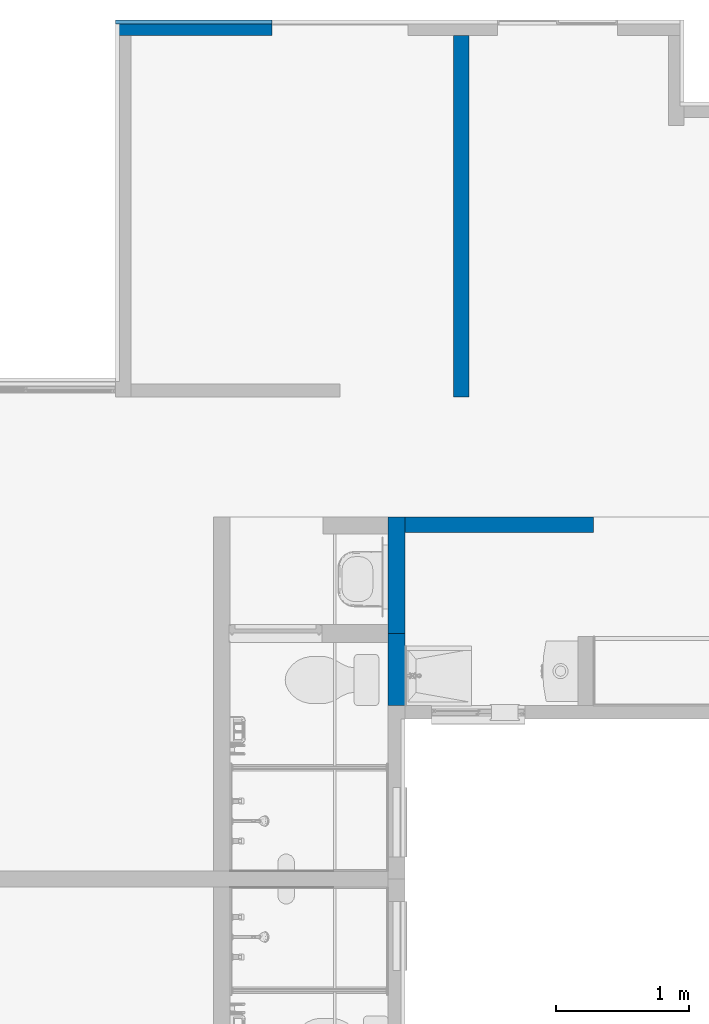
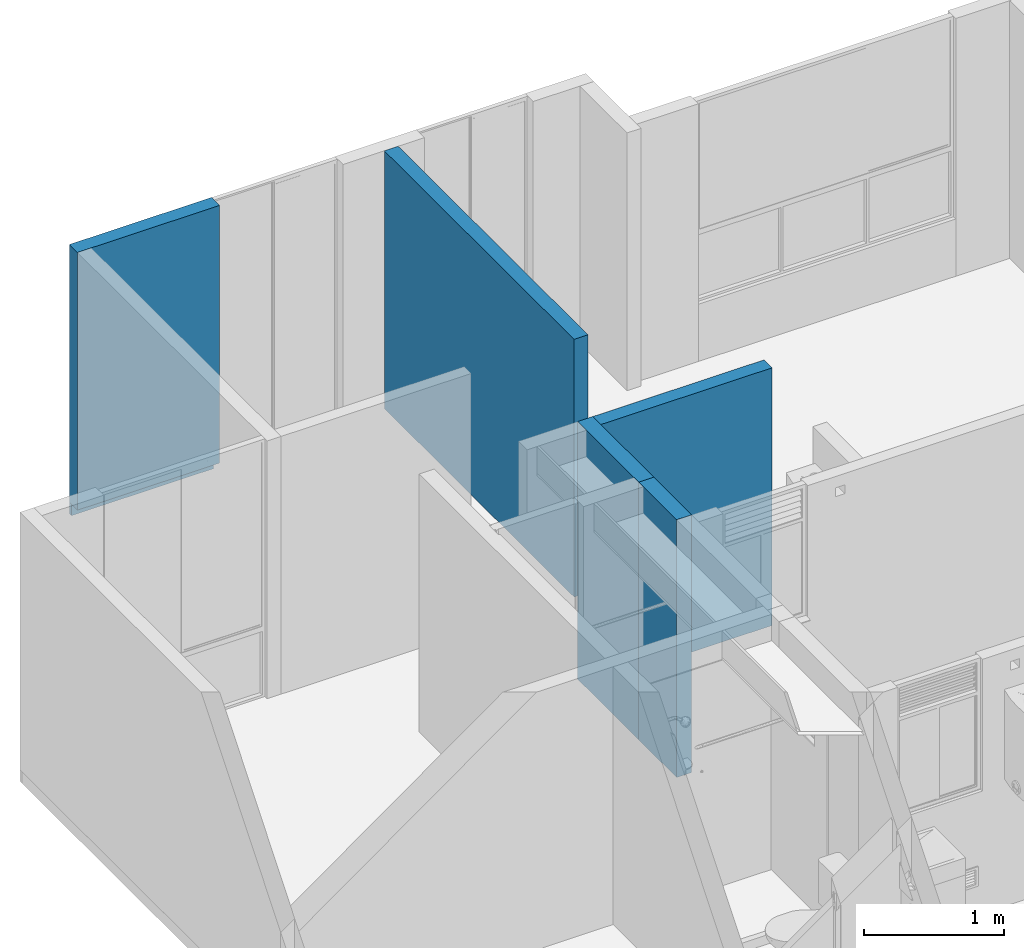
# One storey, part 16 of 48: 6 walls.
"""IFC4 building model written with IfcOpenShell, lengths in metres."""

import ifcopenshell
import ifcopenshell.guid

model = None  # the IFC model being written
_history = None  # IfcOwnerHistory: only IFC2X3 demands one
_inside = {}  # id of a spatial element -> (the spatial element, [elements in it])
_under = {}  # id of a project, library or spatial element -> (it, [spatial elements below it])
_declared = {}  # id of a project -> (the project, [libraries it declares])
_typed = {}  # id of a type object -> (the type object, [elements of that type])
_made_of = {}  # id of a material, layer set ... -> (it, [elements and type objects made of it])


def new_model(schema):
    """Start an empty IFC model of exactly this schema.

    Asked for "IFC4X3", IfcOpenShell would pick the latest addendum, in which some entities
    have other attributes; the version numbers below select the first issue.
    IFC2X3 requires an IfcOwnerHistory on every rooted entity: one is made here for all.
    """
    global model, _history
    if schema == "IFC4X3":
        model = ifcopenshell.file(schema_version=(4, 3, 0, 0))
    else:
        model = ifcopenshell.file(schema=schema)
    _inside.clear()
    _under.clear()
    _declared.clear()
    _typed.clear()
    _made_of.clear()
    _history = None
    if model.schema == "IFC2X3":
        org = make("IfcOrganization", Name="unknown")
        user = make(
            "IfcPersonAndOrganization",
            ThePerson=make("IfcPerson", FamilyName="unknown"),
            TheOrganization=org,
        )
        app = make(
            "IfcApplication",
            ApplicationDeveloper=org,
            Version="unknown",
            ApplicationFullName="unknown",
            ApplicationIdentifier="unknown",
        )
        _history = make(
            "IfcOwnerHistory",
            OwningUser=user,
            OwningApplication=app,
            ChangeAction="ADDED",
            CreationDate=0,
        )
    return model


def make(cls, **values):
    """One entity of the class cls with the attributes given. An attribute that is None is left unset."""
    return model.create_entity(
        cls, **{name: value for name, value in values.items() if value is not None}
    )


def entity(cls, *values):
    """Any entity or typed value of the class cls, its attributes in the order of the schema. None: left unset."""
    e = model.create_entity(cls)
    for i, value in enumerate(values):
        if value is not None:
            e[i] = value
    return e


def rooted(cls, **values):
    """An entity with a GlobalId (a new one), such as an element, a storey or a relation."""
    return make(cls, GlobalId=ifcopenshell.guid.new(), OwnerHistory=_history, **values)


def si_unit(unit_type, name, prefix=None):
    """IfcSIUnit, for example si_unit("LENGTHUNIT", "METRE", prefix="MILLI")."""
    return make("IfcSIUnit", UnitType=unit_type, Prefix=prefix, Name=name)


def converted_unit(unit_type, name, factor, base, dimensions=None, offset=None):
    """IfcConversionBasedUnit, such as the inch: factor (a typed value) times the base unit."""
    return make(
        "IfcConversionBasedUnit"
        if offset is None
        else "IfcConversionBasedUnitWithOffset",
        ConversionOffset=offset,
        Dimensions=None
        if dimensions is None
        else entity("IfcDimensionalExponents", *dimensions),
        UnitType=unit_type,
        Name=name,
        ConversionFactor=make(
            "IfcMeasureWithUnit", ValueComponent=factor, UnitComponent=base
        ),
    )


def derived_unit(unit_type, elements):
    """IfcDerivedUnit: a product of units, each with its exponent."""
    return make(
        "IfcDerivedUnit",
        Elements=[
            make("IfcDerivedUnitElement", Unit=unit, Exponent=power)
            for unit, power in elements
        ],
        UnitType=unit_type,
    )


def assignment(units):
    """IfcUnitAssignment: the units of a project."""
    return None if units is None else make("IfcUnitAssignment", Units=units)


def point(xyz):
    """IfcCartesianPoint."""
    return None if xyz is None else make("IfcCartesianPoint", Coordinates=xyz)


def direction(xyz):
    """IfcDirection."""
    return None if xyz is None else make("IfcDirection", DirectionRatios=xyz)


def frame(location, z_axis=None, x_axis=None):
    """IfcAxis2Placement3D, a coordinate frame: its origin and axes. An axis left out is left unset."""
    return make(
        "IfcAxis2Placement3D",
        Location=point(location),
        Axis=direction(z_axis),
        RefDirection=direction(x_axis),
    )


def origin():
    """The frame at (0, 0, 0) with its axes left unset."""
    return frame((0.0, 0.0, 0.0))


def place(relative_to, where):
    """IfcLocalPlacement: puts the frame where relative to a parent placement (None: the world)."""
    return make(
        "IfcLocalPlacement", PlacementRelTo=relative_to, RelativePlacement=where
    )


def context(
    kind, dimensions, precision=None, world=None, true_north=None, identifier=None
):
    """IfcGeometricRepresentationContext, for example the 3D "Model" context."""
    return make(
        "IfcGeometricRepresentationContext",
        ContextIdentifier=identifier,
        ContextType=kind,
        CoordinateSpaceDimension=dimensions,
        Precision=precision,
        WorldCoordinateSystem=world,
        TrueNorth=true_north,
    )


def subcontext(parent, identifier, kind, view, scale=None):
    """IfcGeometricRepresentationSubContext, for example "Body" below "Model"."""
    return make(
        "IfcGeometricRepresentationSubContext",
        ContextIdentifier=identifier,
        ContextType=kind,
        ParentContext=parent,
        TargetScale=scale,
        TargetView=view,
    )


def project(units=None, contexts=None):
    """IfcProject with its units and contexts."""
    return rooted(
        "IfcProject",
        Name="project",
        RepresentationContexts=contexts,
        UnitsInContext=assignment(units),
    )


def spatial(cls, under=None, at=None, **own):
    """A site, building, storey or space (cls), placed at a placement, below another one or the project."""
    s = rooted(cls, ObjectPlacement=at, **own)
    if under is not None:
        _under.setdefault(under.id(), (under, []))[1].append(s)
    return s


def point_list(points):
    """IfcCartesianPointList2D or 3D."""
    cls = (
        "IfcCartesianPointList2D" if len(points[0]) == 2 else "IfcCartesianPointList3D"
    )
    return make(cls, CoordList=points)


def indexed_curve(points, segments=None, self_intersect=None):
    """IfcIndexedPolyCurve: lines and arcs through numbered points (the first is 1)."""
    return make(
        "IfcIndexedPolyCurve",
        Points=point_list(points),
        Segments=segments,
        SelfIntersect=self_intersect,
    )


def outline(outer, holes=None, kind="AREA"):
    """IfcArbitraryClosedProfileDef: a profile drawn as a closed curve; with holes, ...WithVoids."""
    if holes is None:
        return make("IfcArbitraryClosedProfileDef", ProfileType=kind, OuterCurve=outer)
    return make(
        "IfcArbitraryProfileDefWithVoids",
        ProfileType=kind,
        OuterCurve=outer,
        InnerCurves=holes,
    )


def extrude(swept, where, along, depth):
    """IfcExtrudedAreaSolid: the profile swept, set in the frame where, extruded along a direction by depth."""
    return make(
        "IfcExtrudedAreaSolid",
        SweptArea=swept,
        Position=where,
        ExtrudedDirection=direction(along),
        Depth=depth,
    )


def shape(context_of_items, identifier, shape_type, items):
    """IfcShapeRepresentation: the items that make up one representation, for example the "Body"."""
    return make(
        "IfcShapeRepresentation",
        ContextOfItems=context_of_items,
        RepresentationIdentifier=identifier,
        RepresentationType=shape_type,
        Items=items,
    )


def material(Name=None, Category=None):
    """IfcMaterial."""
    return make("IfcMaterial", Name=Name, Category=Category)


def constituent(of_material, Name=None, Category=None, fraction=None):
    """IfcMaterialConstituent: one of the materials an element consists of."""
    return make(
        "IfcMaterialConstituent",
        Name=Name,
        Material=of_material,
        Fraction=fraction,
        Category=Category,
    )


def constituent_set(constituents=None, Name=None):
    """IfcMaterialConstituentSet."""
    return make(
        "IfcMaterialConstituentSet", Name=Name, MaterialConstituents=constituents
    )


def made_of(thing, what):
    """Note that an element or type object is made of a material, layer set ...; save() writes the relation."""
    if what is not None:
        _made_of.setdefault(what.id(), (what, []))[1].append(thing)
    return thing


def type_object(cls, material=None, **own):
    """A type object (cls), such as IfcWallType, which elements share."""
    return made_of(rooted(cls, **own), material)


def element(
    cls,
    number,
    at=None,
    inside=None,
    cuts=None,
    type_object=None,
    material=None,
    context=None,
    identifier="Body",
    shape_type=None,
    held_by="IfcProductDefinitionShape",
    body=None,
    shapes=None,
    **own,
):
    """One element of the class cls, such as IfcWall. Its Tag is "e" and its number.

    at: its placement. inside: the storey or other place that contains it. cuts: it is an
    opening in that element (IfcRelVoidsElement). A single representation is given by context,
    identifier, shape_type and body (its items); several are given by shapes. held_by: the class
    of the entity that holds the representations. save() writes the other relations.
    """
    e = rooted(cls, Tag="e%d" % number, ObjectPlacement=at, **own)
    if body is not None:
        shapes = [shape(context, identifier, shape_type, body)]
    if shapes is not None:
        e.Representation = make(held_by, Representations=shapes)
    if inside is not None:
        _inside.setdefault(inside.id(), (inside, []))[1].append(e)
    if cuts is not None:
        rooted(
            "IfcRelVoidsElement", RelatingBuildingElement=cuts, RelatedOpeningElement=e
        )
    if type_object is not None:
        _typed.setdefault(type_object.id(), (type_object, []))[1].append(e)
    return made_of(e, material)


def aggregate(whole, parts):
    """IfcRelAggregates: a whole, such as a stair, and the parts it consists of."""
    return rooted("IfcRelAggregates", RelatingObject=whole, RelatedObjects=parts)


def save(model, path):
    """Write the relations noted so far, then the file.

    IfcRelAggregates (storeys below a building ...), IfcRelContainedInSpatialStructure (elements
    in a storey), IfcRelDefinesByType, IfcRelAssociatesMaterial and IfcRelDeclares: one each for
    every whole, place, type object, material and project.
    """
    for whole, parts in _under.values():
        aggregate(whole, parts)
    for where, things in _inside.values():
        rooted(
            "IfcRelContainedInSpatialStructure",
            RelatedElements=things,
            RelatingStructure=where,
        )
    for kind, things in _typed.values():
        rooted("IfcRelDefinesByType", RelatedObjects=things, RelatingType=kind)
    for what, things in _made_of.values():
        rooted("IfcRelAssociatesMaterial", RelatedObjects=things, RelatingMaterial=what)
    for by, libraries in _declared.values():
        rooted("IfcRelDeclares", RelatingContext=by, RelatedDefinitions=libraries)
    model.write(path)


model = new_model("IFC4")

# Units and contexts
model_context = context("Model", 3, precision=1e-05, world=origin(), true_north=direction((6.123031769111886e-17, 1.0)))
body_context = subcontext(model_context, "Body", "Model", "MODEL_VIEW")
ifc_project = project(units=[si_unit("LENGTHUNIT", "METRE"), si_unit("AREAUNIT", "SQUARE_METRE"), si_unit("VOLUMEUNIT", "CUBIC_METRE"), converted_unit("PLANEANGLEUNIT", "DEGREE", entity("IfcRatioMeasure", 0.017453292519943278), si_unit("PLANEANGLEUNIT", "RADIAN"), dimensions=[0, 0, 0, 0, 0, 0, 0]), si_unit("MASSUNIT", "GRAM", prefix="KILO"), derived_unit("MASSDENSITYUNIT", [(si_unit("MASSUNIT", "GRAM", prefix="KILO"), 1), (si_unit("LENGTHUNIT", "METRE"), -3)]), derived_unit("IONCONCENTRATIONUNIT", [(si_unit("MASSUNIT", "GRAM", prefix="KILO"), 1), (si_unit("LENGTHUNIT", "METRE"), -3)]), derived_unit("MOMENTOFINERTIAUNIT", [(si_unit("LENGTHUNIT", "METRE"), 4)]), si_unit("TIMEUNIT", "SECOND"), si_unit("FREQUENCYUNIT", "HERTZ"), si_unit("THERMODYNAMICTEMPERATUREUNIT", "DEGREE_CELSIUS"), derived_unit("THERMALTRANSMITTANCEUNIT", [(si_unit("MASSUNIT", "GRAM", prefix="KILO"), 1), (si_unit("THERMODYNAMICTEMPERATUREUNIT", "KELVIN"), -1), (si_unit("TIMEUNIT", "SECOND"), -3)]), derived_unit("THERMALCONDUCTANCEUNIT", [(si_unit("MASSUNIT", "GRAM", prefix="KILO"), 1), (si_unit("THERMODYNAMICTEMPERATUREUNIT", "KELVIN"), -1), (si_unit("TIMEUNIT", "SECOND"), -3), (si_unit("LENGTHUNIT", "METRE"), 1)]), derived_unit("VOLUMETRICFLOWRATEUNIT", [(si_unit("LENGTHUNIT", "METRE"), 3), (si_unit("TIMEUNIT", "SECOND"), -1)]), derived_unit("MASSFLOWRATEUNIT", [(si_unit("MASSUNIT", "GRAM", prefix="KILO"), 1), (si_unit("TIMEUNIT", "SECOND"), -1)]), derived_unit("ROTATIONALFREQUENCYUNIT", [(si_unit("TIMEUNIT", "SECOND"), -1)]), si_unit("ELECTRICCURRENTUNIT", "AMPERE"), si_unit("ELECTRICVOLTAGEUNIT", "VOLT"), si_unit("POWERUNIT", "WATT"), si_unit("FORCEUNIT", "NEWTON", prefix="KILO"), si_unit("ILLUMINANCEUNIT", "LUX"), si_unit("LUMINOUSFLUXUNIT", "LUMEN"), si_unit("LUMINOUSINTENSITYUNIT", "CANDELA"), derived_unit("USERDEFINED", [(si_unit("MASSUNIT", "GRAM", prefix="KILO"), -1), (si_unit("LENGTHUNIT", "METRE"), -2), (si_unit("TIMEUNIT", "SECOND"), 3), (si_unit("LUMINOUSFLUXUNIT", "LUMEN"), 1)]), derived_unit("USERDEFINED", [(si_unit("MASSUNIT", "GRAM", prefix="KILO"), 1), (si_unit("TIMEUNIT", "SECOND"), -3), (si_unit("LENGTHUNIT", "METRE"), 3), (si_unit("ELECTRICCURRENTUNIT", "AMPERE"), -2)]), derived_unit("SOUNDPOWERUNIT", [(si_unit("MASSUNIT", "GRAM", prefix="KILO"), 1), (si_unit("TIMEUNIT", "SECOND"), -3), (si_unit("LENGTHUNIT", "METRE"), 2)]), derived_unit("SOUNDPRESSUREUNIT", [(si_unit("MASSUNIT", "GRAM", prefix="KILO"), 1), (si_unit("LENGTHUNIT", "METRE"), -1), (si_unit("TIMEUNIT", "SECOND"), -2)]), derived_unit("LINEARVELOCITYUNIT", [(si_unit("LENGTHUNIT", "METRE"), 1), (si_unit("TIMEUNIT", "SECOND"), -1)]), si_unit("PRESSUREUNIT", "PASCAL"), derived_unit("USERDEFINED", [(si_unit("MASSUNIT", "GRAM", prefix="KILO"), 1), (si_unit("LENGTHUNIT", "METRE"), -2), (si_unit("TIMEUNIT", "SECOND"), -2)]), derived_unit("LINEARFORCEUNIT", [(si_unit("MASSUNIT", "GRAM", prefix="KILO"), 1), (si_unit("TIMEUNIT", "SECOND"), -2)]), derived_unit("PLANARFORCEUNIT", [(si_unit("MASSUNIT", "GRAM", prefix="KILO"), 1), (si_unit("LENGTHUNIT", "METRE"), -1), (si_unit("TIMEUNIT", "SECOND"), -2)]), derived_unit("SPECIFICHEATCAPACITYUNIT", [(si_unit("THERMODYNAMICTEMPERATUREUNIT", "KELVIN"), -1), (si_unit("LENGTHUNIT", "METRE"), 2), (si_unit("TIMEUNIT", "SECOND"), -2)]), derived_unit("HEATINGVALUEUNIT", [(si_unit("LENGTHUNIT", "METRE"), 2), (si_unit("TIMEUNIT", "SECOND"), -2)]), derived_unit("VAPORPERMEABILITYUNIT", [(si_unit("LENGTHUNIT", "METRE"), -1), (si_unit("TIMEUNIT", "SECOND"), 1)]), derived_unit("DYNAMICVISCOSITYUNIT", [(si_unit("MASSUNIT", "GRAM", prefix="KILO"), 1), (si_unit("TIMEUNIT", "SECOND"), -1), (si_unit("LENGTHUNIT", "METRE"), -1)]), derived_unit("THERMALEXPANSIONCOEFFICIENTUNIT", [(si_unit("THERMODYNAMICTEMPERATUREUNIT", "KELVIN"), -1)]), derived_unit("MODULUSOFELASTICITYUNIT", [(si_unit("MASSUNIT", "GRAM", prefix="KILO"), 1), (si_unit("LENGTHUNIT", "METRE"), -1), (si_unit("TIMEUNIT", "SECOND"), -2)]), derived_unit("ISOTHERMALMOISTURECAPACITYUNIT", [(si_unit("LENGTHUNIT", "METRE"), 3), (si_unit("MASSUNIT", "GRAM", prefix="KILO"), -1)]), derived_unit("MOISTUREDIFFUSIVITYUNIT", [(si_unit("TIMEUNIT", "SECOND"), -1), (si_unit("LENGTHUNIT", "METRE"), 2)])], contexts=[model_context])

# Site, building, storey
site_placement = place(None, origin())
site = spatial("IfcSite", under=ifc_project, at=site_placement, Name="Default", CompositionType="ELEMENT")
building_placement = place(site_placement, origin())
building = spatial("IfcBuilding", under=site, at=building_placement, CompositionType="ELEMENT")
storey_placement = place(building_placement, frame((0.0, 0.0, 4.700000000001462)))
storey = spatial("IfcBuildingStorey", under=building, at=storey_placement, Name="Nivel 3", CompositionType="ELEMENT", Elevation=4.700000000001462)

# Walls
ifc_material_1 = material(Name="LADRILLO CLARO", Category="Materials")
wall_type_1 = type_object("IfcWallType", Name="Basic Wall:B2010 - 0.115m - ME mampostería no estructural - Ladrillo", PredefinedType="STANDARD")
wall_1_placement = place(storey_placement, frame((3.091699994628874, -0.03750002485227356, 0.0), z_axis=(0.0, 0.0, 1.0), x_axis=(-1.0, 0.0, 0.0)))
element("IfcWall", 1, at=wall_1_placement, inside=storey, type_object=wall_type_1, material=ifc_material_1, Name="Basic Wall:B2010 - 0.115m - ME mampostería no estructural - Ladrillo", ObjectType="Basic Wall:B2010 - 0.115m - ME mampostería no estructural - Ladrillo", PredefinedType="NOTDEFINED", context=body_context, shape_type="SweptSolid", body=[
    extrude(outline(indexed_curve([(1.174199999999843, 0.0575), (-5.2132214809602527e-17, 0.05749999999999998), (5.2132214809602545e-17, -0.0575), (1.174199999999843, -0.0575), (1.174199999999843, 0.0575)], self_intersect=False)), origin(), (0.0, 0.0, 1.0), 2.250000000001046),
])
ifc_material_2 = material(Name="Ladrillo claro (Aire)", Category="Materials")
wall_type_2 = type_object("IfcWallType", Name="Basic Wall:B2010 - 0.115m - Muro interior en mampostería - Ladrillo", PredefinedType="STANDARD")
wall_2_placement = place(storey_placement, frame((4.509999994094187, -0.0950000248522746, 0.0), z_axis=(0.0, 0.0, 1.0), x_axis=(0.0, -1.0, 0.0)))
element("IfcWall", 2, at=wall_2_placement, inside=storey, type_object=wall_type_2, material=ifc_material_2, Name="Basic Wall:B2010 - 0.115m - Muro interior en mampostería - Ladrillo", ObjectType="Basic Wall:B2010 - 0.115m - Muro interior en mampostería - Ladrillo", PredefinedType="NOTDEFINED", context=body_context, shape_type="SweptSolid", body=[
    extrude(outline(indexed_curve([(2.715000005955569, 0.057500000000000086), (-2.3733436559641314e-18, 0.057499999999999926), (2.3733436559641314e-18, -0.057499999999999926), (2.715000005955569, -0.05749999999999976), (2.715000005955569, 0.057500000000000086)], self_intersect=False)), origin(), (0.0, 0.0, 1.0), 2.2499999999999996),
])
wall_3_placement = place(storey_placement, frame((4.087499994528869, -3.7675000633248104, 0.0)))
element("IfcWall", 3, at=wall_3_placement, inside=storey, type_object=wall_type_2, material=ifc_material_2, Name="Basic Wall:B2010 - 0.115m - Muro interior en mampostería - Ladrillo", ObjectType="Basic Wall:B2010 - 0.115m - Muro interior en mampostería - Ladrillo", PredefinedType="NOTDEFINED", context=body_context, shape_type="SweptSolid", body=[
    extrude(outline(indexed_curve([(1.4149999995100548, 0.05749999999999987), (-1.9595423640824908e-16, 0.057499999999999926), (1.9595423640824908e-16, -0.057499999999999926), (1.4149999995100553, -0.057499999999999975), (1.4149999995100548, 0.05749999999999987)], self_intersect=False)), origin(), (0.0, 0.0, 1.0), 2.2499999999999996),
])
ifc_material_3 = material(Name="Pañete, estuco y pintura", Category="Materials")
ifc_constituent_1 = constituent(ifc_material_3, Name="Pañete, estuco y pintura", Category="Materials")
ifc_constituent_2 = constituent(ifc_material_2, Name="Ladrillo claro (Aire)", Category="Materials")
ifc_constituent_set = constituent_set(constituents=[ifc_constituent_1, ifc_constituent_2], Name="Basic Wall:B2010 - 0.115m - Muro interior en mampostería - Ladrillo + Pañete+ estuco+ pintura")
wall_type_3 = type_object("IfcWallType", Name="Basic Wall:B2010 - 0.115m - Muro interior en mampostería - Ladrillo + Pañete+ estuco+ pintura", PredefinedType="STANDARD", material=ifc_constituent_set)
wall_4_placement = place(storey_placement, frame((4.024999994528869, -3.7100000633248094, 0.0), z_axis=(0.0, 0.0, 1.0), x_axis=(0.0, -1.0, 0.0)))
element("IfcWall", 4, at=wall_4_placement, inside=storey, type_object=wall_type_3, material=ifc_constituent_set, Name="Basic Wall:B2010 - 0.115m - Muro interior en mampostería - Ladrillo + Pañete+ estuco+ pintura", ObjectType="Basic Wall:B2010 - 0.115m - Muro interior en mampostería - Ladrillo + Pañete+ estuco+ pintura", PredefinedType="NOTDEFINED", context=body_context, shape_type="SweptSolid", body=[
    extrude(outline(indexed_curve([(-0.32083333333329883, -0.0033333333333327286), (0.35916666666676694, -0.0033333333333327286), (0.42666666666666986, -0.0033333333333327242), (0.4266666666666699, 0.0066666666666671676), (-0.4458333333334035, 0.0066666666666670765), (-0.44583333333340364, -0.0033333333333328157), (-0.32083333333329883, -0.0033333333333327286)], self_intersect=False)), frame((0.44583333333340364, -0.05916666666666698, 0.0)), (0.0, 0.0, 1.0), 2.2499999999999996),
    extrude(outline(indexed_curve([(0.25700000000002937, -0.04599999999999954), (0.37200000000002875, -0.04599999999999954), (0.37200000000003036, 0.0690000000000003), (-0.5005000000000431, 0.06900000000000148), (-0.5005000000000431, -0.04599999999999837), (0.25700000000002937, -0.04599999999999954)], self_intersect=False)), frame((0.3720000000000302, 0.016500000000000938, 0.0), z_axis=(0.0, 0.0, 1.0), x_axis=(-1.0, 0.0, 0.0)), (0.0, 0.0, 1.0), 2.2499999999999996),
])
wall_5_placement = place(storey_placement, frame((4.024999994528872, -4.582500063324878, 0.0), z_axis=(0.0, 0.0, 1.0), x_axis=(0.0, -1.0, 0.0)))
element("IfcWall", 5, at=wall_5_placement, inside=storey, type_object=wall_type_3, material=ifc_constituent_set, Name="Basic Wall:B2010 - 0.115m - Muro interior en mampostería - Ladrillo + Pañete+ estuco+ pintura", ObjectType="Basic Wall:B2010 - 0.115m - Muro interior en mampostería - Ladrillo + Pañete+ estuco+ pintura", PredefinedType="NOTDEFINED", context=body_context, shape_type="SweptSolid", body=[
    extrude(outline(indexed_curve([(-0.1628056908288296, -0.004000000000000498), (0.3117085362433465, -0.004000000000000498), (0.31170853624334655, 0.005999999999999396), (-0.23030569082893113, 0.005999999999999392), (-0.2303056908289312, -0.0040000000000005), (-0.1628056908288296, -0.004000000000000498)], self_intersect=False)), frame((0.23030569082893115, -0.058499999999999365, 0.0)), (0.0, 0.0, 1.0), 2.2499999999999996),
    extrude(outline(indexed_curve([(0.09067143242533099, -0.03833333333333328), (0.12467143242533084, -0.03833333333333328), (0.21717139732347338, -0.0383333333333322), (0.2171713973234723, 0.07666666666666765), (-0.32484282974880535, 0.07666666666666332), (-0.3248428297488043, -0.03833333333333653), (0.09067143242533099, -0.03833333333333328)], self_intersect=False)), frame((0.21717139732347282, 0.02416666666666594, 0.0), z_axis=(0.0, 0.0, 1.0), x_axis=(-1.0, 0.0, 0.0)), (0.0, 0.0, 1.0), 2.2499999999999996),
])
wall_type_4 = type_object("IfcWallType", Name="Basic Wall:B2010 - 0.03m - ME enchape  no estructural - Ladrillo", PredefinedType="STANDARD")
wall_6_placement = place(storey_placement, frame((3.092499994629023, 0.004999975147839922, -0.1000000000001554), z_axis=(0.0, 0.0, 1.0), x_axis=(-1.0, 0.0, 0.0)))
element("IfcWall", 6, at=wall_6_placement, inside=storey, type_object=wall_type_4, material=ifc_material_1, Name="Basic Wall:B2010 - 0.03m - ME enchape  no estructural - Ladrillo", ObjectType="Basic Wall:B2010 - 0.03m - ME enchape  no estructural - Ladrillo", PredefinedType="NOTDEFINED", context=body_context, shape_type="SweptSolid", body=[
    extrude(outline(indexed_curve([(1.1750000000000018, 0.015), (-1.4243869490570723e-16, 0.015), (1.4243869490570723e-16, -0.015), (1.175000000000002, -0.015), (1.1750000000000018, 0.015)], self_intersect=False)), origin(), (0.0, 0.0, 1.0), 0.1),
])

save(model, "model.ifc")
